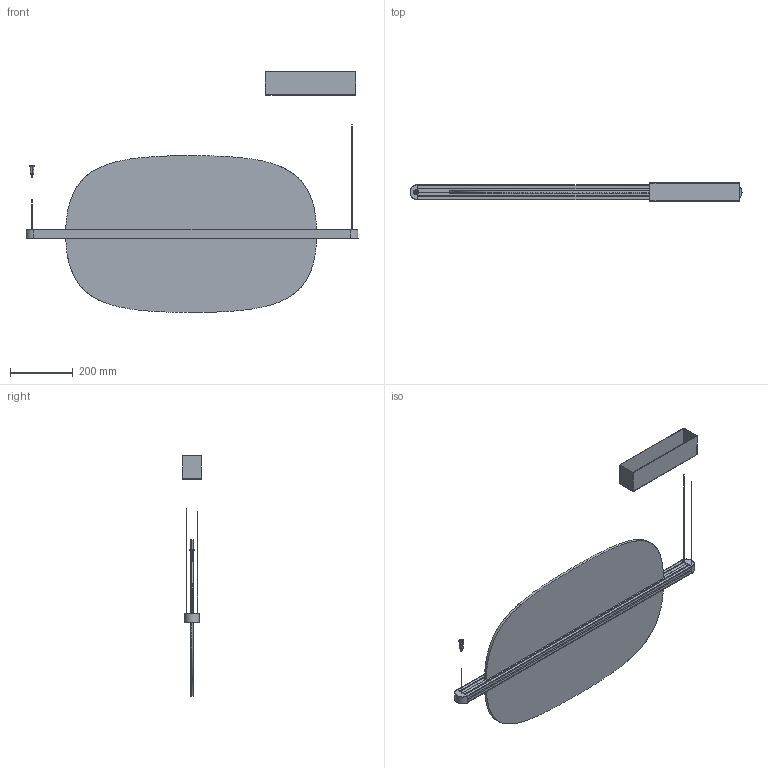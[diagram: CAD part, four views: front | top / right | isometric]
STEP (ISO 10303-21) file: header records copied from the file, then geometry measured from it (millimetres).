
FILE_DESCRIPTION(/* description */ (''),/* implementation_level */ '2;1');
FILE_NAME(/* name */ '194F1F~1',/* time_stamp */ '2021-06-09T14:33:36+02:00',/* author */ (''),/* organization */ (''),/* preprocessor_version */ 'ST-DEVELOPER v16.5',/* originating_system */ '',/* authorisation */ '');
FILE_SCHEMA (('CONFIG_CONTROL_DESIGN'));
Length unit declared in the file: millimetre
Products named in the file (9): Document; MIN.005185; MIN.005186; MET.005568; PRE.005671; CEL.005307; PRE.005672; CEL.005307_1; PLA.005070
Assembly tree (11 placements, depth 3):
  Document
    MIN.005185
    MIN.005186
    MET.005568
    PRE.005671
      CEL.005307
    PRE.005672
      CEL.005307_1
    PLA.005070  x4
Bounding box: 1058.5 x 60 x 767.93 mm (x, y, z)
Volume: 3423032.4 mm3; surface area: 1400594 mm2
Topology: 19 solids, 21 shells, 1061 faces, 3082 edges, 2055 vertices
Faces by surface type: plane 790, cylinder 238, bspline 33
Entity records: 31927 total; most frequent: CARTESIAN_POINT 11857, ORIENTED_EDGE 5844, EDGE_CURVE 2938, B_SPLINE_CURVE_WITH_KNOTS 2424, VERTEX_POINT 1959, DIRECTION 1030, EDGE_LOOP 1019, ADVANCED_FACE 1007
